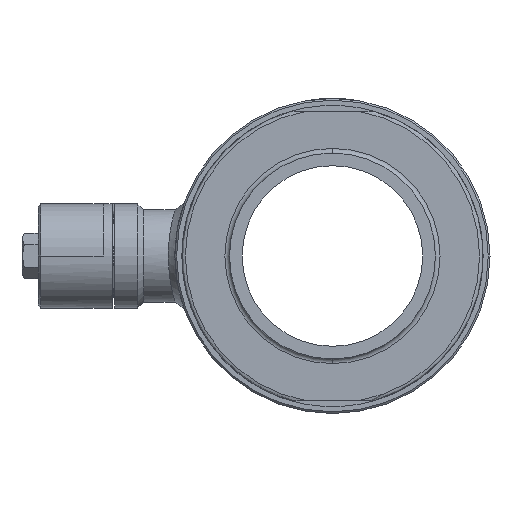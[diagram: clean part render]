
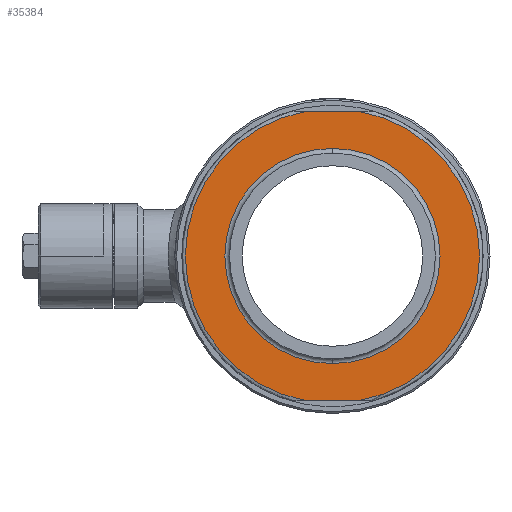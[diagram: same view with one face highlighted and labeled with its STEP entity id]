
A CAD part, left-side view. The second image highlights one B-rep face of the part: STEP entity #35384.
In plain terms, the highlighted planar face has unit normal (-1, 0, 0).
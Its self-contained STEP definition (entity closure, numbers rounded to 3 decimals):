
#3044=DIRECTION('',(0.,1.,0.));
#3045=VECTOR('',#3044,22.45);
#3046=CARTESIAN_POINT('',(-65.,-11.225,-62.5));
#3047=LINE('',#3046,#3045);
#3051=CARTESIAN_POINT('',(-65.,0.,0.));
#3052=DIRECTION('',(-1.,0.,0.));
#3053=DIRECTION('',(0.,0.177,0.984));
#3054=AXIS2_PLACEMENT_3D('',#3051,#3052,#3053);
#3059=DIRECTION('',(0.,1.,0.));
#3060=VECTOR('',#3059,22.45);
#3061=CARTESIAN_POINT('',(-65.,-11.225,62.5));
#3062=LINE('',#3061,#3060);
#3066=CARTESIAN_POINT('',(-65.,0.,0.));
#3067=DIRECTION('',(-1.,0.,0.));
#3068=DIRECTION('',(0.,-0.177,-0.984));
#3069=AXIS2_PLACEMENT_3D('',#3066,#3067,#3068);
#3074=CARTESIAN_POINT('',(-65.,0.,0.));
#3075=DIRECTION('',(-1.,0.,0.));
#3076=DIRECTION('',(0.,0.,1.));
#3077=AXIS2_PLACEMENT_3D('',#3074,#3075,#3076);
#3082=CARTESIAN_POINT('',(-65.,0.,0.));
#3083=DIRECTION('',(-1.,0.,0.));
#3084=DIRECTION('',(0.,0.,-1.));
#3085=AXIS2_PLACEMENT_3D('',#3082,#3083,#3084);
#32779=CARTESIAN_POINT('',(-65.,-11.225,-62.5));
#32780=CARTESIAN_POINT('',(-65.,11.225,-62.5));
#32781=VERTEX_POINT('',#32779);
#32782=VERTEX_POINT('',#32780);
#32783=CARTESIAN_POINT('',(-65.,-11.225,62.5));
#32784=CARTESIAN_POINT('',(-65.,11.225,62.5));
#32785=VERTEX_POINT('',#32783);
#32786=VERTEX_POINT('',#32784);
#32797=CARTESIAN_POINT('',(-65.,0.,46.45));
#32798=CARTESIAN_POINT('',(-65.,0.,-46.45));
#32799=VERTEX_POINT('',#32797);
#32800=VERTEX_POINT('',#32798);
#35364=CARTESIAN_POINT('',(-65.,0.,0.));
#35365=DIRECTION('',(-1.,0.,0.));
#35366=DIRECTION('',(0.,0.,1.));
#35367=AXIS2_PLACEMENT_3D('',#35364,#35365,#35366);
#35368=PLANE('',#35367);
#35370=ORIENTED_EDGE('',*,*,#35369,.T.);
#35372=ORIENTED_EDGE('',*,*,#35371,.F.);
#35374=ORIENTED_EDGE('',*,*,#35373,.F.);
#35376=ORIENTED_EDGE('',*,*,#35375,.F.);
#35377=EDGE_LOOP('',(#35370,#35372,#35374,#35376));
#35378=FACE_OUTER_BOUND('',#35377,.F.);
#35379=ORIENTED_EDGE('',*,*,#35354,.T.);
#35381=ORIENTED_EDGE('',*,*,#35380,.T.);
#35382=EDGE_LOOP('',(#35379,#35381));
#35383=FACE_BOUND('',#35382,.F.);
#35384=ADVANCED_FACE('',(#35378,#35383),#35368,.T.);
#3055=CIRCLE('',#3054,63.5);
#3070=CIRCLE('',#3069,63.5);
#3078=CIRCLE('',#3077,46.45);
#3086=CIRCLE('',#3085,46.45);
#35354=EDGE_CURVE('',#32799,#32800,#3078,.T.);
#35369=EDGE_CURVE('',#32781,#32782,#3047,.T.);
#35371=EDGE_CURVE('',#32786,#32782,#3055,.T.);
#35373=EDGE_CURVE('',#32785,#32786,#3062,.T.);
#35375=EDGE_CURVE('',#32781,#32785,#3070,.T.);
#35380=EDGE_CURVE('',#32800,#32799,#3086,.T.);
